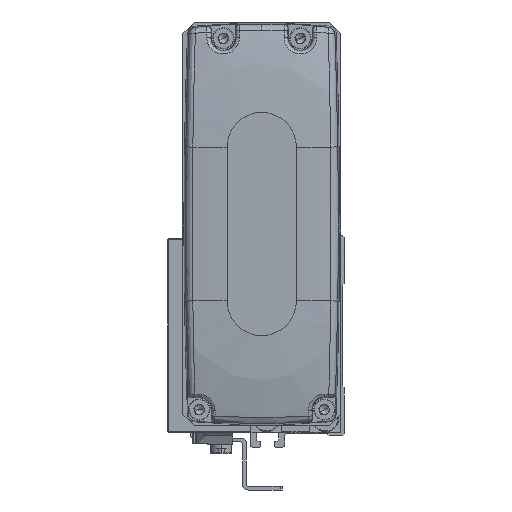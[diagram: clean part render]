
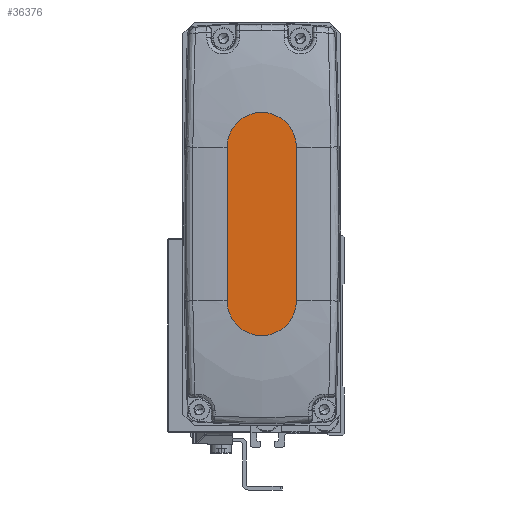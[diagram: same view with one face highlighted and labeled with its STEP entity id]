
A CAD part, left-side view. The second image highlights one B-rep face of the part: STEP entity #36376.
In plain terms, the highlighted planar face has unit normal (-1, 0, 0).
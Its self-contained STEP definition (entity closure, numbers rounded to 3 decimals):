
#673 = CARTESIAN_POINT ( 'NONE',  ( -57., 12.5, 9. ) ) ;
#1974 = DIRECTION ( 'NONE',  ( 0., 0., -1. ) ) ;
#3361 = EDGE_CURVE ( 'NONE', #27438, #7568, #38043, .T. ) ;
#4121 = ORIENTED_EDGE ( 'NONE', *, *, #26493, .F. ) ;
#5226 = EDGE_CURVE ( 'NONE', #7568, #16743, #26650, .T. ) ;
#7568 = VERTEX_POINT ( 'NONE', #42547 ) ;
#7750 = EDGE_CURVE ( 'NONE', #10148, #27438, #27636, .T. ) ;
#10148 = VERTEX_POINT ( 'NONE', #10521 ) ;
#10521 = CARTESIAN_POINT ( 'NONE',  ( -57., 12.5, 49. ) ) ;
#10797 = CARTESIAN_POINT ( 'NONE',  ( -57., 21.5, 49. ) ) ;
#10989 = CARTESIAN_POINT ( 'NONE',  ( -57., -625.266, -37.766 ) ) ;
#11655 = VECTOR ( 'NONE', #1974, 1000. ) ;
#12297 = CIRCLE ( 'NONE', #44985, 9. ) ;
#12604 = CARTESIAN_POINT ( 'NONE',  ( -57., 30.5, 9. ) ) ;
#16076 = DIRECTION ( 'NONE',  ( 1., 0., 0. ) ) ;
#16743 = VERTEX_POINT ( 'NONE', #19821 ) ;
#17934 = ORIENTED_EDGE ( 'NONE', *, *, #7750, .F. ) ;
#17949 = DIRECTION ( 'NONE',  ( 0., 0., 1. ) ) ;
#18767 = EDGE_LOOP ( 'NONE', ( #4121, #26215, #41240, #17934 ) ) ;
#19821 = CARTESIAN_POINT ( 'NONE',  ( -57., 30.5, 49. ) ) ;
#21058 = DIRECTION ( 'NONE',  ( 1., 0., 0. ) ) ;
#24613 = AXIS2_PLACEMENT_3D ( 'NONE', #10989, #25514, #40006 ) ;
#25514 = DIRECTION ( 'NONE',  ( 1., 0., 0. ) ) ;
#25734 = FACE_OUTER_BOUND ( 'NONE', #18767, .T. ) ;
#26215 = ORIENTED_EDGE ( 'NONE', *, *, #5226, .F. ) ;
#26493 = EDGE_CURVE ( 'NONE', #16743, #10148, #12297, .T. ) ;
#26650 = LINE ( 'NONE', #12604, #41990 ) ;
#27438 = VERTEX_POINT ( 'NONE', #673 ) ;
#27636 = LINE ( 'NONE', #34520, #11655 ) ;
#34520 = CARTESIAN_POINT ( 'NONE',  ( -57., 12.5, 49. ) ) ;
#36376 = ADVANCED_FACE ( 'NONE', ( #25734 ), #40229, .F. ) ;
#37255 = DIRECTION ( 'NONE',  ( 0., -1., 0. ) ) ;
#37290 = AXIS2_PLACEMENT_3D ( 'NONE', #37745, #16076, #37255 ) ;
#37594 = DIRECTION ( 'NONE',  ( 0., 0., 1. ) ) ;
#37745 = CARTESIAN_POINT ( 'NONE',  ( -57., 21.5, 9. ) ) ;
#38043 = CIRCLE ( 'NONE', #37290, 9. ) ;
#40006 = DIRECTION ( 'NONE',  ( 0., 1., 0. ) ) ;
#40229 = PLANE ( 'NONE',  #24613 ) ;
#41240 = ORIENTED_EDGE ( 'NONE', *, *, #3361, .F. ) ;
#41990 = VECTOR ( 'NONE', #37594, 1000. ) ;
#42547 = CARTESIAN_POINT ( 'NONE',  ( -57., 30.5, 9. ) ) ;
#44985 = AXIS2_PLACEMENT_3D ( 'NONE', #10797, #21058, #17949 ) ;
